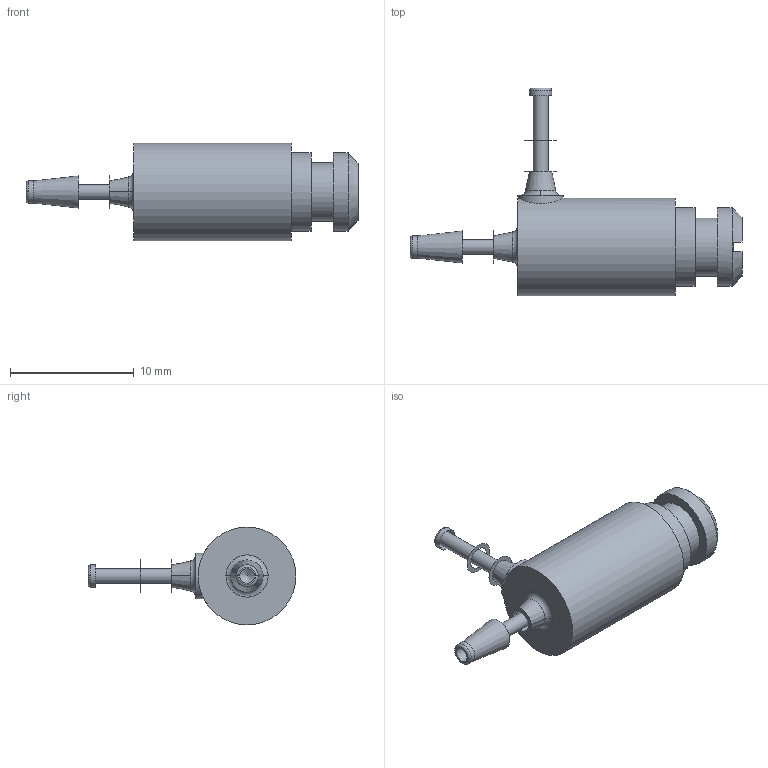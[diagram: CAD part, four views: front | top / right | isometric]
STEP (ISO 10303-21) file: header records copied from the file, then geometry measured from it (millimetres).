
FILE_DESCRIPTION(/* description */ ('SolidWorks IGES file using NURBS representation for surfaces '),/* implementation_level */ '2;1');
FILE_NAME(/* name */ 'K:\Normteile INVENTOR\Air-Logic\Needle Valves\F-2822-40-B80-E.IGS.ipt.stp',/* time_stamp */ '2020-05-27T10:41:00+02:00',/* author */ ('amarsh'),/* organization */ (''),/* preprocessor_version */ 'ST-DEVELOPER v18',/* originating_system */ 'Autodesk Inventor 2020',/* authorisation */ '');
FILE_SCHEMA (('AUTOMOTIVE_DESIGN { 1 0 10303 214 3 1 1 }'));
Length unit declared in the file: millimetre
Products named in the file (1): F-2822-40-B80-E.IGS
Bounding box: 26.87 x 16.83 x 7.92 mm (x, y, z)
Volume: 810.7 mm3; surface area: 777.5 mm2
Topology: 2 solids, 2 shells, 45 faces, 115 edges, 82 vertices
Faces by surface type: plane 17, cone 11, cylinder 9, torus 8
Full cylindrical faces by diameter (mm): 1.2 x2, 1.8 x2, 3.7 x1, 4.7 x1, 6.35 x2, 7.92 x1
Entity records: 1526 total; most frequent: DIRECTION 284, CARTESIAN_POINT 282, ORIENTED_EDGE 226, AXIS2_PLACEMENT_3D 130, EDGE_CURVE 113, CIRCLE 84, VERTEX_POINT 82, EDGE_LOOP 55
